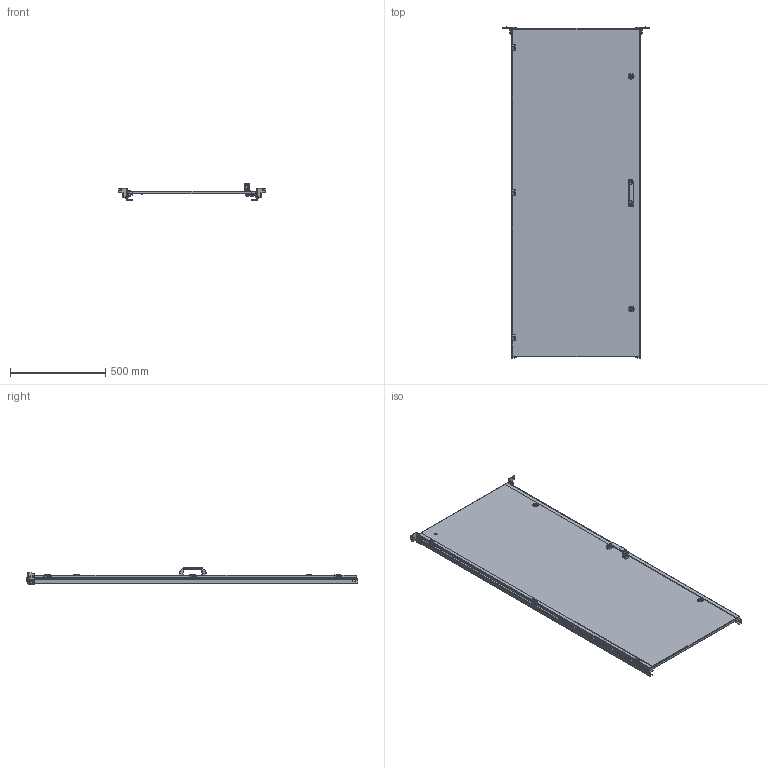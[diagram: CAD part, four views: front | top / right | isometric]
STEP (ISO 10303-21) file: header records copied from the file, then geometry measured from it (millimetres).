
FILE_DESCRIPTION (( 'STEP AP203' ), '1' );
FILE_NAME ('ID 180.80 ﾑﾁ ﾄ粢 粹澵.STEP', '2025-01-23T11:57:41', ( '' ), ( '' ), 'SwSTEP 2.0', 'SolidWorks 2022', '' );
FILE_SCHEMA (( 'CONFIG_CONTROL_DESIGN' ));
Length unit declared in the file: millimetre
Products named in the file (5): ID 180.80 СБ Дверь внутренняя; MP 01.001 Держатель монтажной панели верхний_По умолчаниюSM-FLAT-PATTERN; MP 01.001-01 Держатель монтажной панели верхний; ID 180.80 Дверь внутренняя_ID 180.80 Дверь внутренняя; Винт специальный самонарезающий оц. 4,8x11_Винт специальный самонарезающий оц. 4,8x11
Assembly tree (7 placements, depth 2):
  ID 180.80 СБ Дверь внутренняя
    ID 180.80 Дверь внутренняя_ID 180.80 Дверь внутренняя
    MP 01.001 Держатель монтажной панели верхний_По умолчаниюSM-FLAT-PATTERN
    MP 01.001-01 Держатель монтажной панели верхний
    Винт специальный самонарезающий оц. 4,8x11_Винт специальный самонарезающий оц. 4,8x11  x4
Bounding box: 770 x 1739.1 x 88.74 mm (x, y, z)
Volume: 2371746.3 mm3; surface area: 3091271.2 mm2
Topology: 35 solids, 35 shells, 1723 faces, 4455 edges, 2814 vertices
Faces by surface type: plane 788, cylinder 516, cone 229, bspline 94, sphere 68, torus 28
Entity records: 50937 total; most frequent: CARTESIAN_POINT 13169, ORIENTED_EDGE 7984, DIRECTION 7553, EDGE_CURVE 3992, AXIS2_PLACEMENT_3D 2762, VERTEX_POINT 2526, VECTOR 2029, LINE 2029
